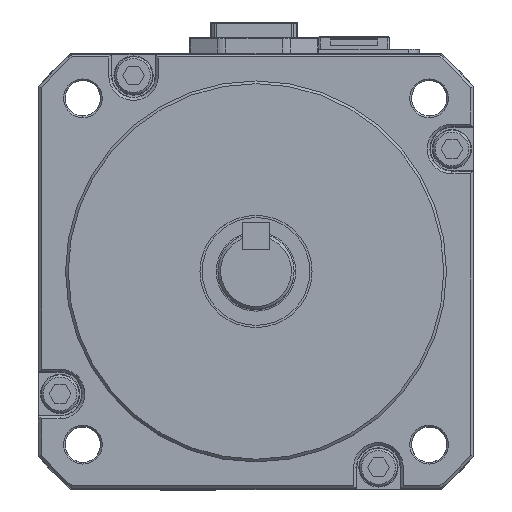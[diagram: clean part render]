
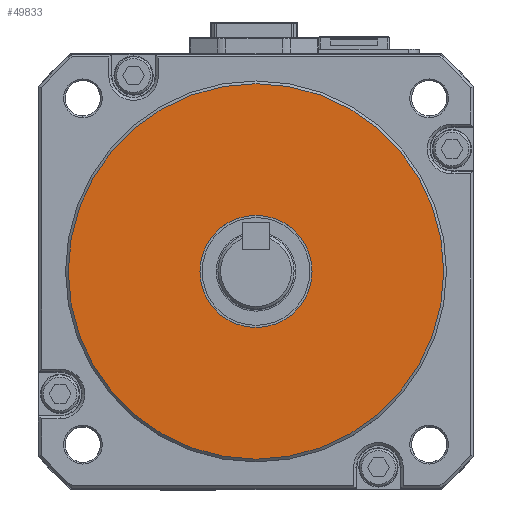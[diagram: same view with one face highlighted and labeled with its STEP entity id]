
A CAD part, top view. The second image highlights one B-rep face of the part: STEP entity #49833.
In plain terms, the highlighted planar face has unit normal (0, 0, 1).
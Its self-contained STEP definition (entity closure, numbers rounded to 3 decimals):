
#2547 = FACE_BOUND ( 'NONE', #37835, .T. ) ;
#3172 = DIRECTION ( 'NONE',  ( 0., 0., 1. ) ) ;
#4978 = ORIENTED_EDGE ( 'NONE', *, *, #46318, .F. ) ;
#8241 = CARTESIAN_POINT ( 'NONE',  ( 0., 0., 13. ) ) ;
#14429 = DIRECTION ( 'NONE',  ( 0., 0., 1. ) ) ;
#20431 = AXIS2_PLACEMENT_3D ( 'NONE', #8241, #3172, #30199 ) ;
#22150 = DIRECTION ( 'NONE',  ( 1., 0., 0. ) ) ;
#23932 = EDGE_LOOP ( 'NONE', ( #59292 ) ) ;
#25828 = CARTESIAN_POINT ( 'NONE',  ( 10.3, 0., 13. ) ) ;
#27685 = CARTESIAN_POINT ( 'NONE',  ( 34.5, 0., 13. ) ) ;
#28878 = FACE_OUTER_BOUND ( 'NONE', #23932, .T. ) ;
#30199 = DIRECTION ( 'NONE',  ( 1., 0., 0. ) ) ;
#34204 = AXIS2_PLACEMENT_3D ( 'NONE', #53227, #14429, #69388 ) ;
#36298 = EDGE_CURVE ( 'NONE', #49230, #49230, #51422, .T. ) ;
#37649 = VERTEX_POINT ( 'NONE', #25828 ) ;
#37835 = EDGE_LOOP ( 'NONE', ( #4978 ) ) ;
#44405 = CARTESIAN_POINT ( 'NONE',  ( 0., 0., 13. ) ) ;
#45373 = PLANE ( 'NONE',  #34204 ) ;
#46318 = EDGE_CURVE ( 'NONE', #37649, #37649, #70097, .T. ) ;
#49230 = VERTEX_POINT ( 'NONE', #27685 ) ;
#49833 = ADVANCED_FACE ( 'NONE', ( #2547, #28878 ), #45373, .T. ) ;
#51422 = CIRCLE ( 'NONE', #20431, 34.5 ) ;
#53227 = CARTESIAN_POINT ( 'NONE',  ( 0., 0., 13. ) ) ;
#57524 = AXIS2_PLACEMENT_3D ( 'NONE', #44405, #70654, #22150 ) ;
#59292 = ORIENTED_EDGE ( 'NONE', *, *, #36298, .T. ) ;
#69388 = DIRECTION ( 'NONE',  ( 1., 0., 0. ) ) ;
#70097 = CIRCLE ( 'NONE', #57524, 10.3 ) ;
#70654 = DIRECTION ( 'NONE',  ( 0., 0., 1. ) ) ;
